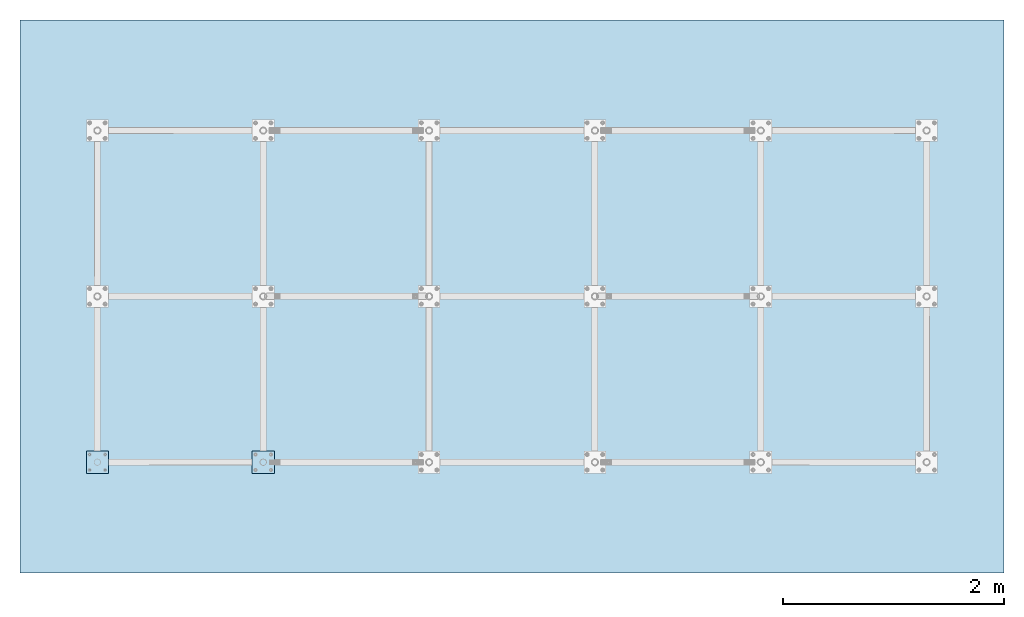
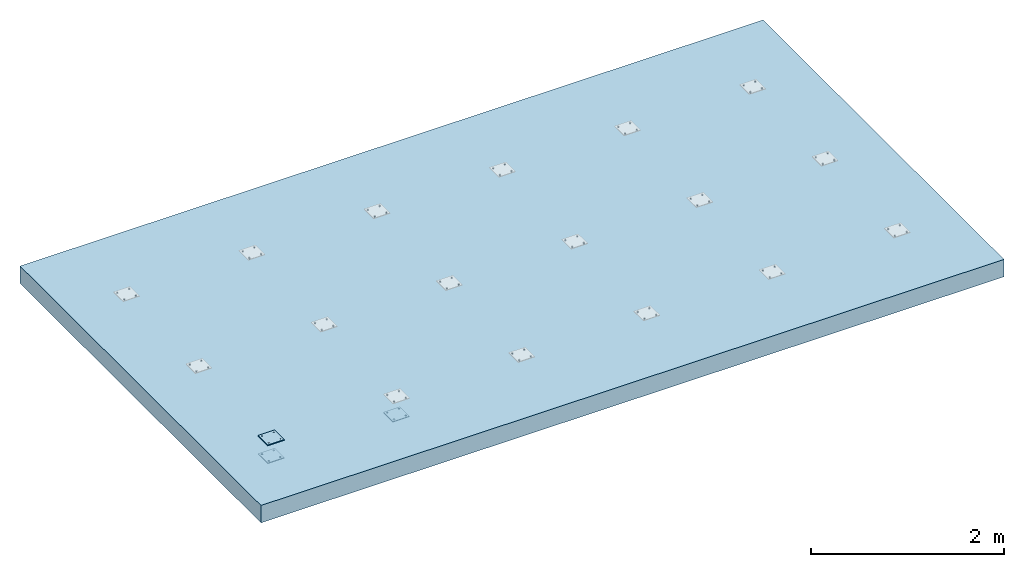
# One storey, part 4 of 30: 3 plates, 1 slab, 84 openings.
"""IFC2X3 building model written with IfcOpenShell, lengths in millimetres."""

import ifcopenshell
import ifcopenshell.guid

model = None  # the IFC model being written
_history = None  # IfcOwnerHistory: only IFC2X3 demands one
_inside = {}  # id of a spatial element -> (the spatial element, [elements in it])
_under = {}  # id of a project, library or spatial element -> (it, [spatial elements below it])
_declared = {}  # id of a project -> (the project, [libraries it declares])
_typed = {}  # id of a type object -> (the type object, [elements of that type])
_made_of = {}  # id of a material, layer set ... -> (it, [elements and type objects made of it])


def new_model(schema):
    """Start an empty IFC model of exactly this schema.

    Asked for "IFC4X3", IfcOpenShell would pick the latest addendum, in which some entities
    have other attributes; the version numbers below select the first issue.
    IFC2X3 requires an IfcOwnerHistory on every rooted entity: one is made here for all.
    """
    global model, _history
    if schema == "IFC4X3":
        model = ifcopenshell.file(schema_version=(4, 3, 0, 0))
    else:
        model = ifcopenshell.file(schema=schema)
    _inside.clear()
    _under.clear()
    _declared.clear()
    _typed.clear()
    _made_of.clear()
    _history = None
    if model.schema == "IFC2X3":
        org = make("IfcOrganization", Name="unknown")
        user = make(
            "IfcPersonAndOrganization",
            ThePerson=make("IfcPerson", FamilyName="unknown"),
            TheOrganization=org,
        )
        app = make(
            "IfcApplication",
            ApplicationDeveloper=org,
            Version="unknown",
            ApplicationFullName="unknown",
            ApplicationIdentifier="unknown",
        )
        _history = make(
            "IfcOwnerHistory",
            OwningUser=user,
            OwningApplication=app,
            ChangeAction="ADDED",
            CreationDate=0,
        )
    return model


def make(cls, **values):
    """One entity of the class cls with the attributes given. An attribute that is None is left unset."""
    return model.create_entity(
        cls, **{name: value for name, value in values.items() if value is not None}
    )


def entity(cls, *values):
    """Any entity or typed value of the class cls, its attributes in the order of the schema. None: left unset."""
    e = model.create_entity(cls)
    for i, value in enumerate(values):
        if value is not None:
            e[i] = value
    return e


def rooted(cls, **values):
    """An entity with a GlobalId (a new one), such as an element, a storey or a relation."""
    return make(cls, GlobalId=ifcopenshell.guid.new(), OwnerHistory=_history, **values)


def si_unit(unit_type, name, prefix=None):
    """IfcSIUnit, for example si_unit("LENGTHUNIT", "METRE", prefix="MILLI")."""
    return make("IfcSIUnit", UnitType=unit_type, Prefix=prefix, Name=name)


def converted_unit(unit_type, name, factor, base, dimensions=None, offset=None):
    """IfcConversionBasedUnit, such as the inch: factor (a typed value) times the base unit."""
    return make(
        "IfcConversionBasedUnit"
        if offset is None
        else "IfcConversionBasedUnitWithOffset",
        ConversionOffset=offset,
        Dimensions=None
        if dimensions is None
        else entity("IfcDimensionalExponents", *dimensions),
        UnitType=unit_type,
        Name=name,
        ConversionFactor=make(
            "IfcMeasureWithUnit", ValueComponent=factor, UnitComponent=base
        ),
    )


def assignment(units):
    """IfcUnitAssignment: the units of a project."""
    return None if units is None else make("IfcUnitAssignment", Units=units)


def point(xyz):
    """IfcCartesianPoint."""
    return None if xyz is None else make("IfcCartesianPoint", Coordinates=xyz)


def direction(xyz):
    """IfcDirection."""
    return None if xyz is None else make("IfcDirection", DirectionRatios=xyz)


def frame(location, z_axis=None, x_axis=None):
    """IfcAxis2Placement3D, a coordinate frame: its origin and axes. An axis left out is left unset."""
    return make(
        "IfcAxis2Placement3D",
        Location=point(location),
        Axis=direction(z_axis),
        RefDirection=direction(x_axis),
    )


def frame_2d(location, x_axis=None):
    """IfcAxis2Placement2D, a coordinate frame in the plane: its origin and x axis."""
    return make(
        "IfcAxis2Placement2D", Location=point(location), RefDirection=direction(x_axis)
    )


def origin():
    """The frame at (0, 0, 0) with its axes left unset."""
    return frame((0.0, 0.0, 0.0))


def origin_with_axes():
    """The frame at (0, 0, 0) with the z axis (0, 0, 1) and the x axis (1, 0, 0) written out."""
    return frame((0.0, 0.0, 0.0), z_axis=(0.0, 0.0, 1.0), x_axis=(1.0, 0.0, 0.0))


def origin_2d_with_axis():
    """The frame at (0, 0) in the plane with the x axis (1, 0) written out."""
    return frame_2d((0.0, 0.0), x_axis=(1.0, 0.0))


def place(relative_to, where):
    """IfcLocalPlacement: puts the frame where relative to a parent placement (None: the world)."""
    return make(
        "IfcLocalPlacement", PlacementRelTo=relative_to, RelativePlacement=where
    )


def context(
    kind, dimensions, precision=None, world=None, true_north=None, identifier=None
):
    """IfcGeometricRepresentationContext, for example the 3D "Model" context."""
    return make(
        "IfcGeometricRepresentationContext",
        ContextIdentifier=identifier,
        ContextType=kind,
        CoordinateSpaceDimension=dimensions,
        Precision=precision,
        WorldCoordinateSystem=world,
        TrueNorth=true_north,
    )


def project(units=None, contexts=None):
    """IfcProject with its units and contexts."""
    return rooted(
        "IfcProject",
        Name="project",
        RepresentationContexts=contexts,
        UnitsInContext=assignment(units),
    )


def spatial(cls, under=None, at=None, **own):
    """A site, building, storey or space (cls), placed at a placement, below another one or the project."""
    s = rooted(cls, ObjectPlacement=at, **own)
    if under is not None:
        _under.setdefault(under.id(), (under, []))[1].append(s)
    return s


def polyline(points):
    """IfcPolyline through the points."""
    return make("IfcPolyline", Points=[point(p) for p in points])


def circle_curve(where, radius):
    """IfcCircle in the frame where."""
    return make("IfcCircle", Position=where, Radius=radius)


def profile(cls, at=None, kind="AREA", **sizes):
    """A parametric profile (cls). Its sizes go by their IFC names, for example OverallWidth=200.0."""
    return make(cls, ProfileType=kind, Position=at, **sizes)


def circle(**sizes):
    """IfcCircleProfileDef."""
    return profile("IfcCircleProfileDef", **sizes)


def outline(outer, holes=None, kind="AREA"):
    """IfcArbitraryClosedProfileDef: a profile drawn as a closed curve; with holes, ...WithVoids."""
    if holes is None:
        return make("IfcArbitraryClosedProfileDef", ProfileType=kind, OuterCurve=outer)
    return make(
        "IfcArbitraryProfileDefWithVoids",
        ProfileType=kind,
        OuterCurve=outer,
        InnerCurves=holes,
    )


def extrude(swept, where, along, depth):
    """IfcExtrudedAreaSolid: the profile swept, set in the frame where, extruded along a direction by depth."""
    return make(
        "IfcExtrudedAreaSolid",
        SweptArea=swept,
        Position=where,
        ExtrudedDirection=direction(along),
        Depth=depth,
    )


def shape(context_of_items, identifier, shape_type, items):
    """IfcShapeRepresentation: the items that make up one representation, for example the "Body"."""
    return make(
        "IfcShapeRepresentation",
        ContextOfItems=context_of_items,
        RepresentationIdentifier=identifier,
        RepresentationType=shape_type,
        Items=items,
    )


def material(Name=None, Category=None):
    """IfcMaterial."""
    return make("IfcMaterial", Name=Name, Category=Category)


def layer(
    of_material, thickness, ventilated=None, Name=None, Category=None, Priority=None
):
    """IfcMaterialLayer: one layer of a wall or slab, of a material (None: an air gap)."""
    return make(
        "IfcMaterialLayer",
        Material=of_material,
        LayerThickness=thickness,
        IsVentilated=ventilated,
        Name=Name,
        Category=Category,
        Priority=Priority,
    )


def layer_set(layers, Name=None):
    """IfcMaterialLayerSet."""
    return make("IfcMaterialLayerSet", MaterialLayers=layers, LayerSetName=Name)


def made_of(thing, what):
    """Note that an element or type object is made of a material, layer set ...; save() writes the relation."""
    if what is not None:
        _made_of.setdefault(what.id(), (what, []))[1].append(thing)
    return thing


def element(
    cls,
    number,
    at=None,
    inside=None,
    cuts=None,
    type_object=None,
    material=None,
    context=None,
    identifier="Body",
    shape_type=None,
    held_by="IfcProductDefinitionShape",
    body=None,
    shapes=None,
    **own,
):
    """One element of the class cls, such as IfcWall. Its Tag is "e" and its number.

    at: its placement. inside: the storey or other place that contains it. cuts: it is an
    opening in that element (IfcRelVoidsElement). A single representation is given by context,
    identifier, shape_type and body (its items); several are given by shapes. held_by: the class
    of the entity that holds the representations. save() writes the other relations.
    """
    e = rooted(cls, Tag="e%d" % number, ObjectPlacement=at, **own)
    if body is not None:
        shapes = [shape(context, identifier, shape_type, body)]
    if shapes is not None:
        e.Representation = make(held_by, Representations=shapes)
    if inside is not None:
        _inside.setdefault(inside.id(), (inside, []))[1].append(e)
    if cuts is not None:
        rooted(
            "IfcRelVoidsElement", RelatingBuildingElement=cuts, RelatedOpeningElement=e
        )
    if type_object is not None:
        _typed.setdefault(type_object.id(), (type_object, []))[1].append(e)
    return made_of(e, material)


def aggregate(whole, parts):
    """IfcRelAggregates: a whole, such as a stair, and the parts it consists of."""
    return rooted("IfcRelAggregates", RelatingObject=whole, RelatedObjects=parts)


def save(model, path):
    """Write the relations noted so far, then the file.

    IfcRelAggregates (storeys below a building ...), IfcRelContainedInSpatialStructure (elements
    in a storey), IfcRelDefinesByType, IfcRelAssociatesMaterial and IfcRelDeclares: one each for
    every whole, place, type object, material and project.
    """
    for whole, parts in _under.values():
        aggregate(whole, parts)
    for where, things in _inside.values():
        rooted(
            "IfcRelContainedInSpatialStructure",
            RelatedElements=things,
            RelatingStructure=where,
        )
    for kind, things in _typed.values():
        rooted("IfcRelDefinesByType", RelatedObjects=things, RelatingType=kind)
    for what, things in _made_of.values():
        rooted("IfcRelAssociatesMaterial", RelatedObjects=things, RelatingMaterial=what)
    for by, libraries in _declared.values():
        rooted("IfcRelDeclares", RelatingContext=by, RelatedDefinitions=libraries)
    model.write(path)


model = new_model("IFC2X3")

# Units and contexts
model_context = context("Model", 3, precision=1e-09, world=origin_with_axes())
ifc_project = project(units=[si_unit("LENGTHUNIT", "METRE", prefix="MILLI"), si_unit("AREAUNIT", "SQUARE_METRE"), si_unit("VOLUMEUNIT", "CUBIC_METRE"), converted_unit("PLANEANGLEUNIT", "DEGREE", entity("IfcPlaneAngleMeasure", 0.01745329), si_unit("PLANEANGLEUNIT", "RADIAN"), dimensions=[0, 0, 0, 0, 0, 0, 0])], contexts=[model_context])

# Site, building, storey
site_placement = place(None, origin_with_axes())
site = spatial("IfcSite", under=ifc_project, at=site_placement, Name="M?nsinger Stra?e, 81477 M?nchen", CompositionType="ELEMENT")
building_placement = place(site_placement, origin_with_axes())
building = spatial("IfcBuilding", under=site, at=building_placement, Name="Struktur 1", CompositionType="ELEMENT")
storey_placement = place(building_placement, origin_with_axes())
storey = spatial("IfcBuildingStorey", under=building, at=storey_placement, Name="Default Storey", CompositionType="ELEMENT", Elevation=0.0)

# Plate, openings
ifc_material_1 = material(Name="S235JR")
ifc_layer_1 = layer(ifc_material_1, 10.0)
ifc_layer_set_1 = layer_set([ifc_layer_1], Name="S235JR")
plate_1_placement = place(None, frame((1406.315117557, 1491.2632594, 6515.0), z_axis=(0.0, 0.0, 1.0), x_axis=(1.0, 0.0, 0.0)))
plate_1 = element("IfcPlate", 1, at=plate_1_placement, inside=storey, material=ifc_layer_set_1, Name="-", ObjectType="-", context=model_context, shape_type="SweptSolid", body=[
    extrude(outline(polyline([(-100.0, -100.0), (100.0, -100.0), (100.0, 100.0), (-100.0, 100.0), (-100.0, -100.0)])), origin_with_axes(), (0.0, 0.0, 1.0), 10.0),
])
opening_1_placement = place(plate_1_placement, frame((-100.0, 100.0, -0.5), z_axis=(0.0, 0.0, 1.0), x_axis=(1.0, 0.0, 0.0)))
element("IfcOpeningElement", 2, at=opening_1_placement, cuts=plate_1, ObjectType="Opening", context=model_context, shape_type="SweptSolid", body=[
    extrude(circle(Radius=9.001, at=frame_2d((170.0, -30.0), x_axis=(1.0, 0.0))), origin(), (0.0, 0.0, 1.0), 11.0),
])
opening_2_placement = place(plate_1_placement, frame((-100.0, 100.0, -0.5), z_axis=(0.0, 0.0, 1.0), x_axis=(1.0, 0.0, 0.0)))
element("IfcOpeningElement", 3, at=opening_2_placement, cuts=plate_1, ObjectType="Opening", context=model_context, shape_type="SweptSolid", body=[
    extrude(circle(Radius=9.001, at=frame_2d((30.0, -30.0), x_axis=(1.0, 0.0))), origin(), (0.0, 0.0, 1.0), 11.0),
])
opening_3_placement = place(plate_1_placement, frame((-100.0, 100.0, -0.5), z_axis=(0.0, 0.0, 1.0), x_axis=(1.0, 0.0, 0.0)))
element("IfcOpeningElement", 4, at=opening_3_placement, cuts=plate_1, ObjectType="Opening", context=model_context, shape_type="SweptSolid", body=[
    extrude(circle(Radius=9.001, at=frame_2d((170.0, -170.0), x_axis=(1.0, 0.0))), origin(), (0.0, 0.0, 1.0), 11.0),
])
opening_4_placement = place(plate_1_placement, frame((-100.0, 100.0, -0.5), z_axis=(0.0, 0.0, 1.0), x_axis=(1.0, 0.0, 0.0)))
element("IfcOpeningElement", 5, at=opening_4_placement, cuts=plate_1, ObjectType="Opening", context=model_context, shape_type="SweptSolid", body=[
    extrude(circle(Radius=9.001, at=frame_2d((30.0, -170.0), x_axis=(1.0, 0.0))), origin(), (0.0, 0.0, 1.0), 11.0),
])

plate_2_placement = place(None, frame((1406.315117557, 1491.2632594, 6745.0), z_axis=(0.0, 0.0, 1.0), x_axis=(1.0, 0.0, 0.0)))
plate_2 = element("IfcPlate", 6, at=plate_2_placement, inside=storey, material=ifc_layer_set_1, Name="-", ObjectType="-", context=model_context, shape_type="SweptSolid", body=[
    extrude(outline(polyline([(-100.0, -100.0), (100.0, -100.0), (100.0, 100.0), (-100.0, 100.0), (-100.0, -100.0)])), origin_with_axes(), (0.0, 0.0, 1.0), 10.0),
])
opening_5_placement = place(plate_2_placement, frame((-100.0, 100.0, -0.5), z_axis=(0.0, 0.0, 1.0), x_axis=(1.0, 0.0, 0.0)))
element("IfcOpeningElement", 7, at=opening_5_placement, cuts=plate_2, ObjectType="Opening", context=model_context, shape_type="SweptSolid", body=[
    extrude(circle(Radius=6.251, at=frame_2d((170.0, -30.0), x_axis=(1.0, 0.0))), origin(), (0.0, 0.0, 1.0), 11.0),
])
opening_6_placement = place(plate_2_placement, frame((-100.0, 100.0, -0.5), z_axis=(0.0, 0.0, 1.0), x_axis=(1.0, 0.0, 0.0)))
element("IfcOpeningElement", 8, at=opening_6_placement, cuts=plate_2, ObjectType="Opening", context=model_context, shape_type="SweptSolid", body=[
    extrude(circle(Radius=6.251, at=frame_2d((30.0, -30.0), x_axis=(1.0, 0.0))), origin(), (0.0, 0.0, 1.0), 11.0),
])
opening_7_placement = place(plate_2_placement, frame((-100.0, 100.0, -0.5), z_axis=(0.0, 0.0, 1.0), x_axis=(1.0, 0.0, 0.0)))
element("IfcOpeningElement", 9, at=opening_7_placement, cuts=plate_2, ObjectType="Opening", context=model_context, shape_type="SweptSolid", body=[
    extrude(circle(Radius=6.251, at=frame_2d((170.0, -170.0), x_axis=(1.0, 0.0))), origin(), (0.0, 0.0, 1.0), 11.0),
])
opening_8_placement = place(plate_2_placement, frame((-100.0, 100.0, -0.5), z_axis=(0.0, 0.0, 1.0), x_axis=(1.0, 0.0, 0.0)))
element("IfcOpeningElement", 10, at=opening_8_placement, cuts=plate_2, ObjectType="Opening", context=model_context, shape_type="SweptSolid", body=[
    extrude(circle(Radius=6.251, at=frame_2d((30.0, -170.0), x_axis=(1.0, 0.0))), origin(), (0.0, 0.0, 1.0), 11.0),
])

plate_3_placement = place(None, frame((2906.315117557, 1491.2632594, 6515.0), z_axis=(0.0, 0.0, -1.0), x_axis=(0.0, 1.0, 0.0)))
plate_3 = element("IfcPlate", 11, at=plate_3_placement, inside=storey, material=ifc_layer_set_1, Name="-", ObjectType="-", context=model_context, shape_type="SweptSolid", body=[
    extrude(outline(polyline([(-100.0, -100.0), (100.0, -100.0), (100.0, 100.0), (-100.0, 100.0), (-100.0, -100.0)])), origin_with_axes(), (0.0, 0.0, -1.0), 10.0),
])
opening_9_placement = place(plate_3_placement, frame((60.999, 70.0, 0.5), z_axis=(0.0, 0.0, 1.0), x_axis=(1.0, 0.0, 0.0)))
element("IfcOpeningElement", 12, at=opening_9_placement, cuts=plate_3, ObjectType="Opening", context=model_context, shape_type="SweptSolid", body=[
    extrude(circle(Radius=9.001, at=frame_2d((9.001, 0.0), x_axis=(1.0, 0.0))), origin(), (0.0, 0.0, -1.0), 11.0),
])
opening_10_placement = place(plate_3_placement, frame((-79.001, 70.0, 0.5), z_axis=(0.0, 0.0, 1.0), x_axis=(1.0, 0.0, 0.0)))
element("IfcOpeningElement", 13, at=opening_10_placement, cuts=plate_3, ObjectType="Opening", context=model_context, shape_type="SweptSolid", body=[
    extrude(circle(Radius=9.001, at=frame_2d((9.001, 0.0), x_axis=(1.0, 0.0))), origin(), (0.0, 0.0, -1.0), 11.0),
])
opening_11_placement = place(plate_3_placement, frame((60.999, -70.0, 0.5), z_axis=(0.0, 0.0, 1.0), x_axis=(1.0, 0.0, 0.0)))
element("IfcOpeningElement", 14, at=opening_11_placement, cuts=plate_3, ObjectType="Opening", context=model_context, shape_type="SweptSolid", body=[
    extrude(circle(Radius=9.001, at=frame_2d((9.001, 0.0), x_axis=(1.0, 0.0))), origin(), (0.0, 0.0, -1.0), 11.0),
])
opening_12_placement = place(plate_3_placement, frame((-79.001, -70.0, 0.5), z_axis=(0.0, 0.0, 1.0), x_axis=(1.0, 0.0, 0.0)))
element("IfcOpeningElement", 15, at=opening_12_placement, cuts=plate_3, ObjectType="Opening", context=model_context, shape_type="SweptSolid", body=[
    extrude(circle(Radius=9.001, at=frame_2d((9.001, 0.0), x_axis=(1.0, 0.0))), origin(), (0.0, 0.0, -1.0), 11.0),
])

# Slab, openings
ifc_material_2 = material(Name="Brettschichtholz BS11")
ifc_layer_2 = layer(ifc_material_2, 220.0)
ifc_layer_set_2 = layer_set([ifc_layer_2], Name="Brettschichtholz BS11")
slab_placement = place(None, frame((5156.315117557, 2991.2632594, 6525.0), z_axis=(0.0, 0.0, 1.0), x_axis=(1.0, 0.0, 0.0)))
slab = element("IfcSlab", 16, at=slab_placement, inside=storey, material=ifc_layer_set_2, Name="-", ObjectType="-", context=model_context, shape_type="SweptSolid", body=[
    extrude(outline(polyline([(-4450.0, -2500.0), (4450.0, -2500.0), (4450.0, 2500.0), (-4450.0, 2500.0), (-4450.0, -2500.0)])), origin_with_axes(), (0.0, 0.0, 1.0), 220.0),
])
opening_13_placement = place(slab_placement, frame((0.0, 0.0, -0.1), z_axis=(0.0, 0.0, 1.0), x_axis=(1.0, 0.0, 0.0)))
element("IfcOpeningElement", 17, at=opening_13_placement, cuts=slab, ObjectType="Opening", context=model_context, shape_type="SweptSolid", body=[
    extrude(outline(circle_curve(frame_2d((-3820.0, 1570.0), x_axis=(1.0, 0.0)), 8.001)), origin(), (0.0, 0.0, 1.0), 220.2),
])
opening_14_placement = place(slab_placement, frame((-3680.0, 1570.0, -0.1), z_axis=(0.0, 0.0, 1.0), x_axis=(1.0, 0.0, 0.0)))
element("IfcOpeningElement", 18, at=opening_14_placement, cuts=slab, ObjectType="Opening", context=model_context, shape_type="SweptSolid", body=[
    extrude(outline(circle_curve(origin_2d_with_axis(), 8.001)), origin(), (0.0, 0.0, 1.0), 220.2),
])
opening_15_placement = place(slab_placement, frame((-3680.0, 1430.0, -0.1), z_axis=(0.0, 0.0, 1.0), x_axis=(1.0, 0.0, 0.0)))
element("IfcOpeningElement", 19, at=opening_15_placement, cuts=slab, ObjectType="Opening", context=model_context, shape_type="SweptSolid", body=[
    extrude(outline(circle_curve(origin_2d_with_axis(), 8.001)), origin(), (0.0, 0.0, 1.0), 220.2),
])
opening_16_placement = place(slab_placement, frame((-3820.0, 1430.0, -0.1), z_axis=(0.0, 0.0, 1.0), x_axis=(1.0, 0.0, 0.0)))
element("IfcOpeningElement", 20, at=opening_16_placement, cuts=slab, ObjectType="Opening", context=model_context, shape_type="SweptSolid", body=[
    extrude(outline(circle_curve(origin_2d_with_axis(), 8.001)), origin(), (0.0, 0.0, 1.0), 220.2),
])
opening_17_placement = place(slab_placement, frame((-3820.0, -70.0, -0.1), z_axis=(0.0, 0.0, 1.0), x_axis=(1.0, 0.0, 0.0)))
element("IfcOpeningElement", 21, at=opening_17_placement, cuts=slab, ObjectType="Opening", context=model_context, shape_type="SweptSolid", body=[
    extrude(outline(circle_curve(origin_2d_with_axis(), 8.001)), origin(), (0.0, 0.0, 1.0), 220.2),
])
opening_18_placement = place(slab_placement, frame((-3680.0, -70.0, -0.1), z_axis=(0.0, 0.0, 1.0), x_axis=(1.0, 0.0, 0.0)))
element("IfcOpeningElement", 22, at=opening_18_placement, cuts=slab, ObjectType="Opening", context=model_context, shape_type="SweptSolid", body=[
    extrude(outline(circle_curve(origin_2d_with_axis(), 8.001)), origin(), (0.0, 0.0, 1.0), 220.2),
])
opening_19_placement = place(slab_placement, frame((-3680.0, 70.0, -0.1), z_axis=(0.0, 0.0, 1.0), x_axis=(1.0, 0.0, 0.0)))
element("IfcOpeningElement", 23, at=opening_19_placement, cuts=slab, ObjectType="Opening", context=model_context, shape_type="SweptSolid", body=[
    extrude(outline(circle_curve(origin_2d_with_axis(), 8.001)), origin(), (0.0, 0.0, 1.0), 220.2),
])
opening_20_placement = place(slab_placement, frame((-3820.0, 70.0, -0.1), z_axis=(0.0, 0.0, 1.0), x_axis=(1.0, 0.0, 0.0)))
element("IfcOpeningElement", 24, at=opening_20_placement, cuts=slab, ObjectType="Opening", context=model_context, shape_type="SweptSolid", body=[
    extrude(outline(circle_curve(origin_2d_with_axis(), 8.001)), origin(), (0.0, 0.0, 1.0), 220.2),
])
opening_21_placement = place(slab_placement, frame((-3820.0, -1570.0, -0.1), z_axis=(0.0, 0.0, 1.0), x_axis=(1.0, 0.0, 0.0)))
element("IfcOpeningElement", 25, at=opening_21_placement, cuts=slab, ObjectType="Opening", context=model_context, shape_type="SweptSolid", body=[
    extrude(outline(circle_curve(origin_2d_with_axis(), 8.001)), origin(), (0.0, 0.0, 1.0), 220.2),
])
opening_22_placement = place(slab_placement, frame((-3680.0, -1570.0, -0.1), z_axis=(0.0, 0.0, 1.0), x_axis=(1.0, 0.0, 0.0)))
element("IfcOpeningElement", 26, at=opening_22_placement, cuts=slab, ObjectType="Opening", context=model_context, shape_type="SweptSolid", body=[
    extrude(outline(circle_curve(origin_2d_with_axis(), 8.001)), origin(), (0.0, 0.0, 1.0), 220.2),
])
opening_23_placement = place(slab_placement, frame((-3680.0, -1430.0, -0.1), z_axis=(0.0, 0.0, 1.0), x_axis=(1.0, 0.0, 0.0)))
element("IfcOpeningElement", 27, at=opening_23_placement, cuts=slab, ObjectType="Opening", context=model_context, shape_type="SweptSolid", body=[
    extrude(outline(circle_curve(origin_2d_with_axis(), 8.001)), origin(), (0.0, 0.0, 1.0), 220.2),
])
opening_24_placement = place(slab_placement, frame((-3820.0, -1430.0, -0.1), z_axis=(0.0, 0.0, 1.0), x_axis=(1.0, 0.0, 0.0)))
element("IfcOpeningElement", 28, at=opening_24_placement, cuts=slab, ObjectType="Opening", context=model_context, shape_type="SweptSolid", body=[
    extrude(outline(circle_curve(origin_2d_with_axis(), 8.001)), origin(), (0.0, 0.0, 1.0), 220.2),
])
opening_25_placement = place(slab_placement, frame((-2320.0, -1430.0, -0.1), z_axis=(0.0, 0.0, 1.0), x_axis=(1.0, 0.0, 0.0)))
element("IfcOpeningElement", 29, at=opening_25_placement, cuts=slab, ObjectType="Opening", context=model_context, shape_type="SweptSolid", body=[
    extrude(outline(circle_curve(origin_2d_with_axis(), 8.001)), origin(), (0.0, 0.0, 1.0), 220.2),
])
opening_26_placement = place(slab_placement, frame((-2180.0, -1430.0, -0.1), z_axis=(0.0, 0.0, 1.0), x_axis=(1.0, 0.0, 0.0)))
element("IfcOpeningElement", 30, at=opening_26_placement, cuts=slab, ObjectType="Opening", context=model_context, shape_type="SweptSolid", body=[
    extrude(outline(circle_curve(origin_2d_with_axis(), 8.001)), origin(), (0.0, 0.0, 1.0), 220.2),
])
opening_27_placement = place(slab_placement, frame((-2180.0, -1570.0, -0.1), z_axis=(0.0, 0.0, 1.0), x_axis=(1.0, 0.0, 0.0)))
element("IfcOpeningElement", 31, at=opening_27_placement, cuts=slab, ObjectType="Opening", context=model_context, shape_type="SweptSolid", body=[
    extrude(outline(circle_curve(origin_2d_with_axis(), 8.001)), origin(), (0.0, 0.0, 1.0), 220.2),
])
opening_28_placement = place(slab_placement, frame((-2320.0, -1570.0, -0.1), z_axis=(0.0, 0.0, 1.0), x_axis=(1.0, 0.0, 0.0)))
element("IfcOpeningElement", 32, at=opening_28_placement, cuts=slab, ObjectType="Opening", context=model_context, shape_type="SweptSolid", body=[
    extrude(outline(circle_curve(origin_2d_with_axis(), 8.001)), origin(), (0.0, 0.0, 1.0), 220.2),
])
opening_29_placement = place(slab_placement, frame((-2320.0, 70.0, -0.1), z_axis=(0.0, 0.0, 1.0), x_axis=(1.0, 0.0, 0.0)))
element("IfcOpeningElement", 33, at=opening_29_placement, cuts=slab, ObjectType="Opening", context=model_context, shape_type="SweptSolid", body=[
    extrude(outline(circle_curve(origin_2d_with_axis(), 8.001)), origin(), (0.0, 0.0, 1.0), 220.2),
])
opening_30_placement = place(slab_placement, frame((-2180.0, 70.0, -0.1), z_axis=(0.0, 0.0, 1.0), x_axis=(1.0, 0.0, 0.0)))
element("IfcOpeningElement", 34, at=opening_30_placement, cuts=slab, ObjectType="Opening", context=model_context, shape_type="SweptSolid", body=[
    extrude(outline(circle_curve(origin_2d_with_axis(), 8.001)), origin(), (0.0, 0.0, 1.0), 220.2),
])
opening_31_placement = place(slab_placement, frame((-2180.0, -70.0, -0.1), z_axis=(0.0, 0.0, 1.0), x_axis=(1.0, 0.0, 0.0)))
element("IfcOpeningElement", 35, at=opening_31_placement, cuts=slab, ObjectType="Opening", context=model_context, shape_type="SweptSolid", body=[
    extrude(outline(circle_curve(origin_2d_with_axis(), 8.001)), origin(), (0.0, 0.0, 1.0), 220.2),
])
opening_32_placement = place(slab_placement, frame((-2320.0, -70.0, -0.1), z_axis=(0.0, 0.0, 1.0), x_axis=(1.0, 0.0, 0.0)))
element("IfcOpeningElement", 36, at=opening_32_placement, cuts=slab, ObjectType="Opening", context=model_context, shape_type="SweptSolid", body=[
    extrude(outline(circle_curve(origin_2d_with_axis(), 8.001)), origin(), (0.0, 0.0, 1.0), 220.2),
])
opening_33_placement = place(slab_placement, frame((-2320.0, 1430.0, -0.1), z_axis=(0.0, 0.0, 1.0), x_axis=(1.0, 0.0, 0.0)))
element("IfcOpeningElement", 37, at=opening_33_placement, cuts=slab, ObjectType="Opening", context=model_context, shape_type="SweptSolid", body=[
    extrude(outline(circle_curve(origin_2d_with_axis(), 8.001)), origin(), (0.0, 0.0, 1.0), 220.2),
])
opening_34_placement = place(slab_placement, frame((-2180.0, 1430.0, -0.1), z_axis=(0.0, 0.0, 1.0), x_axis=(1.0, 0.0, 0.0)))
element("IfcOpeningElement", 38, at=opening_34_placement, cuts=slab, ObjectType="Opening", context=model_context, shape_type="SweptSolid", body=[
    extrude(outline(circle_curve(origin_2d_with_axis(), 8.001)), origin(), (0.0, 0.0, 1.0), 220.2),
])
opening_35_placement = place(slab_placement, frame((-2180.0, 1570.0, -0.1), z_axis=(0.0, 0.0, 1.0), x_axis=(1.0, 0.0, 0.0)))
element("IfcOpeningElement", 39, at=opening_35_placement, cuts=slab, ObjectType="Opening", context=model_context, shape_type="SweptSolid", body=[
    extrude(outline(circle_curve(origin_2d_with_axis(), 8.001)), origin(), (0.0, 0.0, 1.0), 220.2),
])
opening_36_placement = place(slab_placement, frame((-2320.0, 1570.0, -0.1), z_axis=(0.0, 0.0, 1.0), x_axis=(1.0, 0.0, 0.0)))
element("IfcOpeningElement", 40, at=opening_36_placement, cuts=slab, ObjectType="Opening", context=model_context, shape_type="SweptSolid", body=[
    extrude(outline(circle_curve(origin_2d_with_axis(), 8.001)), origin(), (0.0, 0.0, 1.0), 220.2),
])
opening_37_placement = place(slab_placement, frame((-820.0, -1430.0, -0.1), z_axis=(0.0, 0.0, 1.0), x_axis=(1.0, 0.0, 0.0)))
element("IfcOpeningElement", 41, at=opening_37_placement, cuts=slab, ObjectType="Opening", context=model_context, shape_type="SweptSolid", body=[
    extrude(outline(circle_curve(origin_2d_with_axis(), 8.001)), origin(), (0.0, 0.0, 1.0), 220.2),
])
opening_38_placement = place(slab_placement, frame((-680.0, -1430.0, -0.1), z_axis=(0.0, 0.0, 1.0), x_axis=(1.0, 0.0, 0.0)))
element("IfcOpeningElement", 42, at=opening_38_placement, cuts=slab, ObjectType="Opening", context=model_context, shape_type="SweptSolid", body=[
    extrude(outline(circle_curve(origin_2d_with_axis(), 8.001)), origin(), (0.0, 0.0, 1.0), 220.2),
])
opening_39_placement = place(slab_placement, frame((-680.0, -1570.0, -0.1), z_axis=(0.0, 0.0, 1.0), x_axis=(1.0, 0.0, 0.0)))
element("IfcOpeningElement", 43, at=opening_39_placement, cuts=slab, ObjectType="Opening", context=model_context, shape_type="SweptSolid", body=[
    extrude(outline(circle_curve(origin_2d_with_axis(), 8.001)), origin(), (0.0, 0.0, 1.0), 220.2),
])
opening_40_placement = place(slab_placement, frame((-820.0, -1570.0, -0.1), z_axis=(0.0, 0.0, 1.0), x_axis=(1.0, 0.0, 0.0)))
element("IfcOpeningElement", 44, at=opening_40_placement, cuts=slab, ObjectType="Opening", context=model_context, shape_type="SweptSolid", body=[
    extrude(outline(circle_curve(origin_2d_with_axis(), 8.001)), origin(), (0.0, 0.0, 1.0), 220.2),
])
opening_41_placement = place(slab_placement, frame((-820.0, 70.0, -0.1), z_axis=(0.0, 0.0, 1.0), x_axis=(1.0, 0.0, 0.0)))
element("IfcOpeningElement", 45, at=opening_41_placement, cuts=slab, ObjectType="Opening", context=model_context, shape_type="SweptSolid", body=[
    extrude(outline(circle_curve(origin_2d_with_axis(), 8.001)), origin(), (0.0, 0.0, 1.0), 220.2),
])
opening_42_placement = place(slab_placement, frame((-680.0, 70.0, -0.1), z_axis=(0.0, 0.0, 1.0), x_axis=(1.0, 0.0, 0.0)))
element("IfcOpeningElement", 46, at=opening_42_placement, cuts=slab, ObjectType="Opening", context=model_context, shape_type="SweptSolid", body=[
    extrude(outline(circle_curve(origin_2d_with_axis(), 8.001)), origin(), (0.0, 0.0, 1.0), 220.2),
])
opening_43_placement = place(slab_placement, frame((-680.0, -70.0, -0.1), z_axis=(0.0, 0.0, 1.0), x_axis=(1.0, 0.0, 0.0)))
element("IfcOpeningElement", 47, at=opening_43_placement, cuts=slab, ObjectType="Opening", context=model_context, shape_type="SweptSolid", body=[
    extrude(outline(circle_curve(origin_2d_with_axis(), 8.001)), origin(), (0.0, 0.0, 1.0), 220.2),
])
opening_44_placement = place(slab_placement, frame((-820.0, -70.0, -0.1), z_axis=(0.0, 0.0, 1.0), x_axis=(1.0, 0.0, 0.0)))
element("IfcOpeningElement", 48, at=opening_44_placement, cuts=slab, ObjectType="Opening", context=model_context, shape_type="SweptSolid", body=[
    extrude(outline(circle_curve(origin_2d_with_axis(), 8.001)), origin(), (0.0, 0.0, 1.0), 220.2),
])
opening_45_placement = place(slab_placement, frame((-820.0, 1430.0, -0.1), z_axis=(0.0, 0.0, 1.0), x_axis=(1.0, 0.0, 0.0)))
element("IfcOpeningElement", 49, at=opening_45_placement, cuts=slab, ObjectType="Opening", context=model_context, shape_type="SweptSolid", body=[
    extrude(outline(circle_curve(origin_2d_with_axis(), 8.001)), origin(), (0.0, 0.0, 1.0), 220.2),
])
opening_46_placement = place(slab_placement, frame((-680.0, 1430.0, -0.1), z_axis=(0.0, 0.0, 1.0), x_axis=(1.0, 0.0, 0.0)))
element("IfcOpeningElement", 50, at=opening_46_placement, cuts=slab, ObjectType="Opening", context=model_context, shape_type="SweptSolid", body=[
    extrude(outline(circle_curve(origin_2d_with_axis(), 8.001)), origin(), (0.0, 0.0, 1.0), 220.2),
])
opening_47_placement = place(slab_placement, frame((-680.0, 1570.0, -0.1), z_axis=(0.0, 0.0, 1.0), x_axis=(1.0, 0.0, 0.0)))
element("IfcOpeningElement", 51, at=opening_47_placement, cuts=slab, ObjectType="Opening", context=model_context, shape_type="SweptSolid", body=[
    extrude(outline(circle_curve(origin_2d_with_axis(), 8.001)), origin(), (0.0, 0.0, 1.0), 220.2),
])
opening_48_placement = place(slab_placement, frame((-820.0, 1570.0, -0.1), z_axis=(0.0, 0.0, 1.0), x_axis=(1.0, 0.0, 0.0)))
element("IfcOpeningElement", 52, at=opening_48_placement, cuts=slab, ObjectType="Opening", context=model_context, shape_type="SweptSolid", body=[
    extrude(outline(circle_curve(origin_2d_with_axis(), 8.001)), origin(), (0.0, 0.0, 1.0), 220.2),
])
opening_49_placement = place(slab_placement, frame((680.0, -1430.0, -0.1), z_axis=(0.0, 0.0, 1.0), x_axis=(1.0, 0.0, 0.0)))
element("IfcOpeningElement", 53, at=opening_49_placement, cuts=slab, ObjectType="Opening", context=model_context, shape_type="SweptSolid", body=[
    extrude(outline(circle_curve(origin_2d_with_axis(), 8.001)), origin(), (0.0, 0.0, 1.0), 220.2),
])
opening_50_placement = place(slab_placement, frame((820.0, -1430.0, -0.1), z_axis=(0.0, 0.0, 1.0), x_axis=(1.0, 0.0, 0.0)))
element("IfcOpeningElement", 54, at=opening_50_placement, cuts=slab, ObjectType="Opening", context=model_context, shape_type="SweptSolid", body=[
    extrude(outline(circle_curve(origin_2d_with_axis(), 8.001)), origin(), (0.0, 0.0, 1.0), 220.2),
])
opening_51_placement = place(slab_placement, frame((820.0, -1570.0, -0.1), z_axis=(0.0, 0.0, 1.0), x_axis=(1.0, 0.0, 0.0)))
element("IfcOpeningElement", 55, at=opening_51_placement, cuts=slab, ObjectType="Opening", context=model_context, shape_type="SweptSolid", body=[
    extrude(outline(circle_curve(origin_2d_with_axis(), 8.001)), origin(), (0.0, 0.0, 1.0), 220.2),
])
opening_52_placement = place(slab_placement, frame((680.0, -1570.0, -0.1), z_axis=(0.0, 0.0, 1.0), x_axis=(1.0, 0.0, 0.0)))
element("IfcOpeningElement", 56, at=opening_52_placement, cuts=slab, ObjectType="Opening", context=model_context, shape_type="SweptSolid", body=[
    extrude(outline(circle_curve(origin_2d_with_axis(), 8.001)), origin(), (0.0, 0.0, 1.0), 220.2),
])
opening_53_placement = place(slab_placement, frame((680.0, 70.0, -0.1), z_axis=(0.0, 0.0, 1.0), x_axis=(1.0, 0.0, 0.0)))
element("IfcOpeningElement", 57, at=opening_53_placement, cuts=slab, ObjectType="Opening", context=model_context, shape_type="SweptSolid", body=[
    extrude(outline(circle_curve(origin_2d_with_axis(), 8.001)), origin(), (0.0, 0.0, 1.0), 220.2),
])
opening_54_placement = place(slab_placement, frame((820.0, 70.0, -0.1), z_axis=(0.0, 0.0, 1.0), x_axis=(1.0, 0.0, 0.0)))
element("IfcOpeningElement", 58, at=opening_54_placement, cuts=slab, ObjectType="Opening", context=model_context, shape_type="SweptSolid", body=[
    extrude(outline(circle_curve(origin_2d_with_axis(), 8.001)), origin(), (0.0, 0.0, 1.0), 220.2),
])
opening_55_placement = place(slab_placement, frame((820.0, -70.0, -0.1), z_axis=(0.0, 0.0, 1.0), x_axis=(1.0, 0.0, 0.0)))
element("IfcOpeningElement", 59, at=opening_55_placement, cuts=slab, ObjectType="Opening", context=model_context, shape_type="SweptSolid", body=[
    extrude(outline(circle_curve(origin_2d_with_axis(), 8.001)), origin(), (0.0, 0.0, 1.0), 220.2),
])
opening_56_placement = place(slab_placement, frame((680.0, -70.0, -0.1), z_axis=(0.0, 0.0, 1.0), x_axis=(1.0, 0.0, 0.0)))
element("IfcOpeningElement", 60, at=opening_56_placement, cuts=slab, ObjectType="Opening", context=model_context, shape_type="SweptSolid", body=[
    extrude(outline(circle_curve(origin_2d_with_axis(), 8.001)), origin(), (0.0, 0.0, 1.0), 220.2),
])
opening_57_placement = place(slab_placement, frame((680.0, 1430.0, -0.1), z_axis=(0.0, 0.0, 1.0), x_axis=(1.0, 0.0, 0.0)))
element("IfcOpeningElement", 61, at=opening_57_placement, cuts=slab, ObjectType="Opening", context=model_context, shape_type="SweptSolid", body=[
    extrude(outline(circle_curve(origin_2d_with_axis(), 8.001)), origin(), (0.0, 0.0, 1.0), 220.2),
])
opening_58_placement = place(slab_placement, frame((820.0, 1430.0, -0.1), z_axis=(0.0, 0.0, 1.0), x_axis=(1.0, 0.0, 0.0)))
element("IfcOpeningElement", 62, at=opening_58_placement, cuts=slab, ObjectType="Opening", context=model_context, shape_type="SweptSolid", body=[
    extrude(outline(circle_curve(origin_2d_with_axis(), 8.001)), origin(), (0.0, 0.0, 1.0), 220.2),
])
opening_59_placement = place(slab_placement, frame((820.0, 1570.0, -0.1), z_axis=(0.0, 0.0, 1.0), x_axis=(1.0, 0.0, 0.0)))
element("IfcOpeningElement", 63, at=opening_59_placement, cuts=slab, ObjectType="Opening", context=model_context, shape_type="SweptSolid", body=[
    extrude(outline(circle_curve(origin_2d_with_axis(), 8.001)), origin(), (0.0, 0.0, 1.0), 220.2),
])
opening_60_placement = place(slab_placement, frame((680.0, 1570.0, -0.1), z_axis=(0.0, 0.0, 1.0), x_axis=(1.0, 0.0, 0.0)))
element("IfcOpeningElement", 64, at=opening_60_placement, cuts=slab, ObjectType="Opening", context=model_context, shape_type="SweptSolid", body=[
    extrude(outline(circle_curve(origin_2d_with_axis(), 8.001)), origin(), (0.0, 0.0, 1.0), 220.2),
])
opening_61_placement = place(slab_placement, frame((2180.0, -1430.0, -0.1), z_axis=(0.0, 0.0, 1.0), x_axis=(1.0, 0.0, 0.0)))
element("IfcOpeningElement", 65, at=opening_61_placement, cuts=slab, ObjectType="Opening", context=model_context, shape_type="SweptSolid", body=[
    extrude(outline(circle_curve(origin_2d_with_axis(), 8.001)), origin(), (0.0, 0.0, 1.0), 220.2),
])
opening_62_placement = place(slab_placement, frame((2320.0, -1430.0, -0.1), z_axis=(0.0, 0.0, 1.0), x_axis=(1.0, 0.0, 0.0)))
element("IfcOpeningElement", 66, at=opening_62_placement, cuts=slab, ObjectType="Opening", context=model_context, shape_type="SweptSolid", body=[
    extrude(outline(circle_curve(origin_2d_with_axis(), 8.001)), origin(), (0.0, 0.0, 1.0), 220.2),
])
opening_63_placement = place(slab_placement, frame((2320.0, -1570.0, -0.1), z_axis=(0.0, 0.0, 1.0), x_axis=(1.0, 0.0, 0.0)))
element("IfcOpeningElement", 67, at=opening_63_placement, cuts=slab, ObjectType="Opening", context=model_context, shape_type="SweptSolid", body=[
    extrude(outline(circle_curve(origin_2d_with_axis(), 8.001)), origin(), (0.0, 0.0, 1.0), 220.2),
])
opening_64_placement = place(slab_placement, frame((2180.0, -1570.0, -0.1), z_axis=(0.0, 0.0, 1.0), x_axis=(1.0, 0.0, 0.0)))
element("IfcOpeningElement", 68, at=opening_64_placement, cuts=slab, ObjectType="Opening", context=model_context, shape_type="SweptSolid", body=[
    extrude(outline(circle_curve(origin_2d_with_axis(), 8.001)), origin(), (0.0, 0.0, 1.0), 220.2),
])
opening_65_placement = place(slab_placement, frame((2180.0, 70.0, -0.1), z_axis=(0.0, 0.0, 1.0), x_axis=(1.0, 0.0, 0.0)))
element("IfcOpeningElement", 69, at=opening_65_placement, cuts=slab, ObjectType="Opening", context=model_context, shape_type="SweptSolid", body=[
    extrude(outline(circle_curve(origin_2d_with_axis(), 8.001)), origin(), (0.0, 0.0, 1.0), 220.2),
])
opening_66_placement = place(slab_placement, frame((2320.0, 70.0, -0.1), z_axis=(0.0, 0.0, 1.0), x_axis=(1.0, 0.0, 0.0)))
element("IfcOpeningElement", 70, at=opening_66_placement, cuts=slab, ObjectType="Opening", context=model_context, shape_type="SweptSolid", body=[
    extrude(outline(circle_curve(origin_2d_with_axis(), 8.001)), origin(), (0.0, 0.0, 1.0), 220.2),
])
opening_67_placement = place(slab_placement, frame((2320.0, -70.0, -0.1), z_axis=(0.0, 0.0, 1.0), x_axis=(1.0, 0.0, 0.0)))
element("IfcOpeningElement", 71, at=opening_67_placement, cuts=slab, ObjectType="Opening", context=model_context, shape_type="SweptSolid", body=[
    extrude(outline(circle_curve(origin_2d_with_axis(), 8.001)), origin(), (0.0, 0.0, 1.0), 220.2),
])
opening_68_placement = place(slab_placement, frame((2180.0, -70.0, -0.1), z_axis=(0.0, 0.0, 1.0), x_axis=(1.0, 0.0, 0.0)))
element("IfcOpeningElement", 72, at=opening_68_placement, cuts=slab, ObjectType="Opening", context=model_context, shape_type="SweptSolid", body=[
    extrude(outline(circle_curve(origin_2d_with_axis(), 8.001)), origin(), (0.0, 0.0, 1.0), 220.2),
])
opening_69_placement = place(slab_placement, frame((2180.0, 1430.0, -0.1), z_axis=(0.0, 0.0, 1.0), x_axis=(1.0, 0.0, 0.0)))
element("IfcOpeningElement", 73, at=opening_69_placement, cuts=slab, ObjectType="Opening", context=model_context, shape_type="SweptSolid", body=[
    extrude(outline(circle_curve(origin_2d_with_axis(), 8.001)), origin(), (0.0, 0.0, 1.0), 220.2),
])
opening_70_placement = place(slab_placement, frame((2320.0, 1430.0, -0.1), z_axis=(0.0, 0.0, 1.0), x_axis=(1.0, 0.0, 0.0)))
element("IfcOpeningElement", 74, at=opening_70_placement, cuts=slab, ObjectType="Opening", context=model_context, shape_type="SweptSolid", body=[
    extrude(outline(circle_curve(origin_2d_with_axis(), 8.001)), origin(), (0.0, 0.0, 1.0), 220.2),
])
opening_71_placement = place(slab_placement, frame((2320.0, 1570.0, -0.1), z_axis=(0.0, 0.0, 1.0), x_axis=(1.0, 0.0, 0.0)))
element("IfcOpeningElement", 75, at=opening_71_placement, cuts=slab, ObjectType="Opening", context=model_context, shape_type="SweptSolid", body=[
    extrude(outline(circle_curve(origin_2d_with_axis(), 8.001)), origin(), (0.0, 0.0, 1.0), 220.2),
])
opening_72_placement = place(slab_placement, frame((2180.0, 1570.0, -0.1), z_axis=(0.0, 0.0, 1.0), x_axis=(1.0, 0.0, 0.0)))
element("IfcOpeningElement", 76, at=opening_72_placement, cuts=slab, ObjectType="Opening", context=model_context, shape_type="SweptSolid", body=[
    extrude(outline(circle_curve(origin_2d_with_axis(), 8.001)), origin(), (0.0, 0.0, 1.0), 220.2),
])
opening_73_placement = place(slab_placement, frame((3680.0, -1430.0, -0.1), z_axis=(0.0, 0.0, 1.0), x_axis=(1.0, 0.0, 0.0)))
element("IfcOpeningElement", 77, at=opening_73_placement, cuts=slab, ObjectType="Opening", context=model_context, shape_type="SweptSolid", body=[
    extrude(outline(circle_curve(origin_2d_with_axis(), 8.001)), origin(), (0.0, 0.0, 1.0), 220.2),
])
opening_74_placement = place(slab_placement, frame((3820.0, -1430.0, -0.1), z_axis=(0.0, 0.0, 1.0), x_axis=(1.0, 0.0, 0.0)))
element("IfcOpeningElement", 78, at=opening_74_placement, cuts=slab, ObjectType="Opening", context=model_context, shape_type="SweptSolid", body=[
    extrude(outline(circle_curve(origin_2d_with_axis(), 8.001)), origin(), (0.0, 0.0, 1.0), 220.2),
])
opening_75_placement = place(slab_placement, frame((3820.0, -1570.0, -0.1), z_axis=(0.0, 0.0, 1.0), x_axis=(1.0, 0.0, 0.0)))
element("IfcOpeningElement", 79, at=opening_75_placement, cuts=slab, ObjectType="Opening", context=model_context, shape_type="SweptSolid", body=[
    extrude(outline(circle_curve(origin_2d_with_axis(), 8.001)), origin(), (0.0, 0.0, 1.0), 220.2),
])
opening_76_placement = place(slab_placement, frame((3680.0, -1570.0, -0.1), z_axis=(0.0, 0.0, 1.0), x_axis=(1.0, 0.0, 0.0)))
element("IfcOpeningElement", 80, at=opening_76_placement, cuts=slab, ObjectType="Opening", context=model_context, shape_type="SweptSolid", body=[
    extrude(outline(circle_curve(origin_2d_with_axis(), 8.001)), origin(), (0.0, 0.0, 1.0), 220.2),
])
opening_77_placement = place(slab_placement, frame((3680.0, 70.0, -0.1), z_axis=(0.0, 0.0, 1.0), x_axis=(1.0, 0.0, 0.0)))
element("IfcOpeningElement", 81, at=opening_77_placement, cuts=slab, ObjectType="Opening", context=model_context, shape_type="SweptSolid", body=[
    extrude(outline(circle_curve(origin_2d_with_axis(), 8.001)), origin(), (0.0, 0.0, 1.0), 220.2),
])
opening_78_placement = place(slab_placement, frame((3820.0, 70.0, -0.1), z_axis=(0.0, 0.0, 1.0), x_axis=(1.0, 0.0, 0.0)))
element("IfcOpeningElement", 82, at=opening_78_placement, cuts=slab, ObjectType="Opening", context=model_context, shape_type="SweptSolid", body=[
    extrude(outline(circle_curve(origin_2d_with_axis(), 8.001)), origin(), (0.0, 0.0, 1.0), 220.2),
])
opening_79_placement = place(slab_placement, frame((3820.0, -70.0, -0.1), z_axis=(0.0, 0.0, 1.0), x_axis=(1.0, 0.0, 0.0)))
element("IfcOpeningElement", 83, at=opening_79_placement, cuts=slab, ObjectType="Opening", context=model_context, shape_type="SweptSolid", body=[
    extrude(outline(circle_curve(origin_2d_with_axis(), 8.001)), origin(), (0.0, 0.0, 1.0), 220.2),
])
opening_80_placement = place(slab_placement, frame((3680.0, -70.0, -0.1), z_axis=(0.0, 0.0, 1.0), x_axis=(1.0, 0.0, 0.0)))
element("IfcOpeningElement", 84, at=opening_80_placement, cuts=slab, ObjectType="Opening", context=model_context, shape_type="SweptSolid", body=[
    extrude(outline(circle_curve(origin_2d_with_axis(), 8.001)), origin(), (0.0, 0.0, 1.0), 220.2),
])
opening_81_placement = place(slab_placement, frame((3680.0, 1430.0, -0.1), z_axis=(0.0, 0.0, 1.0), x_axis=(1.0, 0.0, 0.0)))
element("IfcOpeningElement", 85, at=opening_81_placement, cuts=slab, ObjectType="Opening", context=model_context, shape_type="SweptSolid", body=[
    extrude(outline(circle_curve(origin_2d_with_axis(), 8.001)), origin(), (0.0, 0.0, 1.0), 220.2),
])
opening_82_placement = place(slab_placement, frame((3820.0, 1430.0, -0.1), z_axis=(0.0, 0.0, 1.0), x_axis=(1.0, 0.0, 0.0)))
element("IfcOpeningElement", 86, at=opening_82_placement, cuts=slab, ObjectType="Opening", context=model_context, shape_type="SweptSolid", body=[
    extrude(outline(circle_curve(origin_2d_with_axis(), 8.001)), origin(), (0.0, 0.0, 1.0), 220.2),
])
opening_83_placement = place(slab_placement, frame((3820.0, 1570.0, -0.1), z_axis=(0.0, 0.0, 1.0), x_axis=(1.0, 0.0, 0.0)))
element("IfcOpeningElement", 87, at=opening_83_placement, cuts=slab, ObjectType="Opening", context=model_context, shape_type="SweptSolid", body=[
    extrude(outline(circle_curve(origin_2d_with_axis(), 8.001)), origin(), (0.0, 0.0, 1.0), 220.2),
])
opening_84_placement = place(slab_placement, frame((3680.0, 1570.0, -0.1), z_axis=(0.0, 0.0, 1.0), x_axis=(1.0, 0.0, 0.0)))
element("IfcOpeningElement", 88, at=opening_84_placement, cuts=slab, ObjectType="Opening", context=model_context, shape_type="SweptSolid", body=[
    extrude(outline(circle_curve(origin_2d_with_axis(), 8.001)), origin(), (0.0, 0.0, 1.0), 220.2),
])

save(model, "model.ifc")
